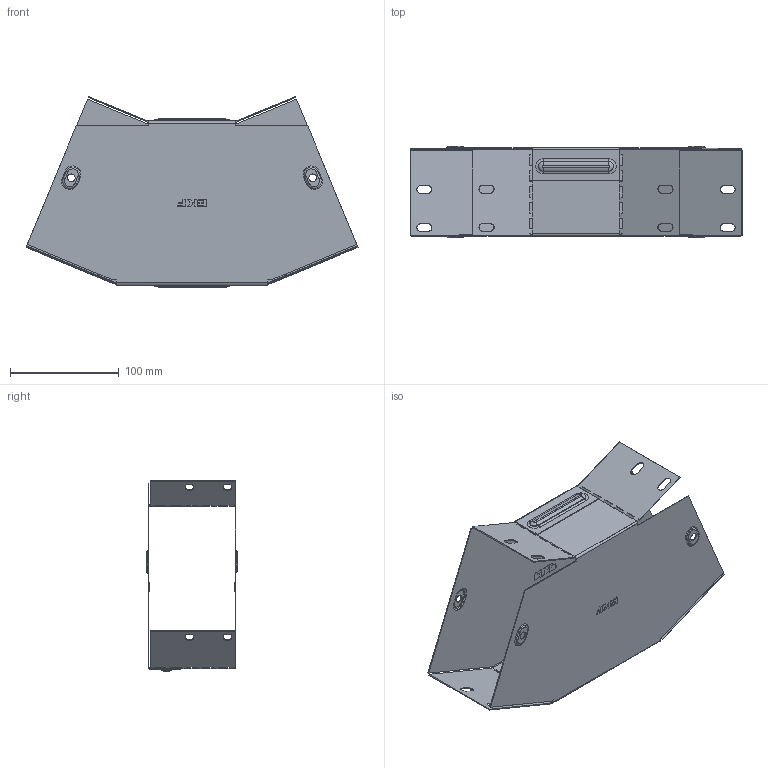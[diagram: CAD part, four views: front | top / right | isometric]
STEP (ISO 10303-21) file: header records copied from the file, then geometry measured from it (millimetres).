
FILE_DESCRIPTION (( 'STEP AP214' ), '1' );
FILE_NAME ('g4580150_捘.STEP', '2019-06-10T08:34:27', ( '砐錪賧瘔蠈錪 Windows' ), ( '' ), 'SwSTEP 2.0', 'SolidWorks 2018', '' );
FILE_SCHEMA (( 'AUTOMOTIVE_DESIGN' ));
Length unit declared in the file: millimetre
Products named in the file (1): g4580150_捘
Bounding box: 305.14 x 83.8 x 175.42 mm (x, y, z)
Volume: 96329 mm3; surface area: 243655.6 mm2
Topology: 2 solids, 2 shells, 560 faces, 1548 edges, 980 vertices
Faces by surface type: plane 314, cylinder 164, torus 64, bspline 18
Entity records: 18752 total; most frequent: CARTESIAN_POINT 4108, ORIENTED_EDGE 3096, DIRECTION 3022, EDGE_CURVE 1548, VECTOR 1088, LINE 1088, VERTEX_POINT 980, AXIS2_PLACEMENT_3D 967
